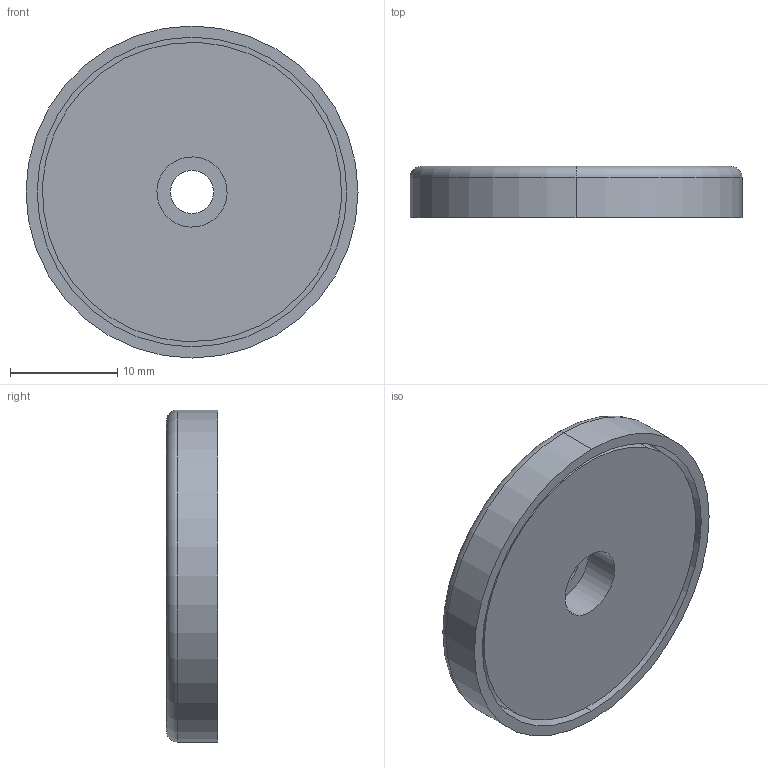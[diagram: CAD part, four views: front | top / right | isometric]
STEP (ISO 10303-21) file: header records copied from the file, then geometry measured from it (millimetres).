
FILE_DESCRIPTION (( 'STEP AP203' ), '1' );
FILE_NAME ('MX.STEP', '2018-07-31T14:09:58', ( '' ), ( '' ), 'SwSTEP 2.0', 'SolidWorks 2015', '' );
FILE_SCHEMA (( 'CONFIG_CONTROL_DESIGN' ));
Length unit declared in the file: inch
Products named in the file (1): MX
Bounding box: 30.99 x 4.76 x 30.99 mm (x, y, z)
Volume: 3124.2 mm3; surface area: 3789.1 mm2
Topology: 2 solids, 2 shells, 17 faces, 34 edges, 22 vertices
Faces by surface type: cylinder 10, plane 5, torus 2
Entity records: 541 total; most frequent: DIRECTION 94, CARTESIAN_POINT 74, ORIENTED_EDGE 68, AXIS2_PLACEMENT_3D 42, EDGE_CURVE 34, CIRCLE 24, EDGE_LOOP 22, VERTEX_POINT 22
